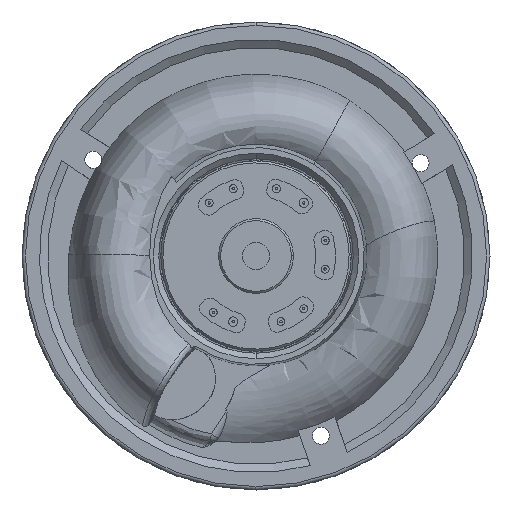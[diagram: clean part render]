
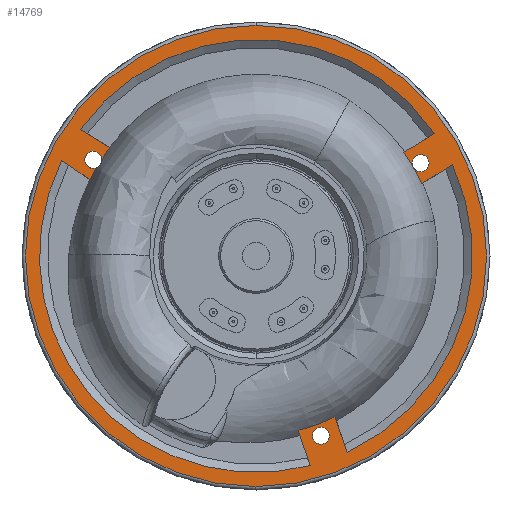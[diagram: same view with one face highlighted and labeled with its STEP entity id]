
A CAD part, front view. The second image highlights one B-rep face of the part: STEP entity #14769.
In plain terms, the highlighted planar face has unit normal (0, -1, 0).
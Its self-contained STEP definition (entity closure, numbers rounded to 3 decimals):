
#4212=CARTESIAN_POINT('',(-23.936,-5.64,14.132));
#4213=DIRECTION('',(0.,1.,0.));
#4214=DIRECTION('',(0.382,0.,-0.924));
#4215=AXIS2_PLACEMENT_3D('',#4212,#4213,#4214);
#4217=DIRECTION('',(0.823,0.,-0.567));
#4218=VECTOR('',#4217,5.063);
#4219=CARTESIAN_POINT('',(-28.571,-5.64,14.076));
#4220=LINE('',#4219,#4218);
#4221=DIRECTION('',(0.328,0.,-0.945));
#4222=VECTOR('',#4221,5.507);
#4223=CARTESIAN_POINT('',(6.178,-5.64,-25.631));
#4224=LINE('',#4223,#4222);
#4225=DIRECTION('',(-0.328,0.,0.945));
#4226=VECTOR('',#4225,5.497);
#4227=CARTESIAN_POINT('',(13.426,-5.64,-28.882));
#4228=LINE('',#4227,#4226);
#4229=DIRECTION('',(0.846,0.,0.533));
#4230=VECTOR('',#4229,5.32);
#4231=CARTESIAN_POINT('',(24.373,-5.64,10.609));
#4232=LINE('',#4231,#4230);
#4233=CARTESIAN_POINT('',(24.207,-5.64,13.663));
#4234=DIRECTION('',(0.,1.,0.));
#4235=DIRECTION('',(1.,0.,0.));
#4236=AXIS2_PLACEMENT_3D('',#4233,#4234,#4235);
#4238=CARTESIAN_POINT('',(24.207,-5.64,13.663));
#4239=DIRECTION('',(0.,1.,0.));
#4240=DIRECTION('',(-1.,0.,0.));
#4241=AXIS2_PLACEMENT_3D('',#4238,#4239,#4240);
#4243=CARTESIAN_POINT('',(24.207,-5.64,13.663));
#4244=DIRECTION('',(0.,1.,0.));
#4245=DIRECTION('',(-0.955,0.,-0.297));
#4246=AXIS2_PLACEMENT_3D('',#4243,#4244,#4245);
#4248=DIRECTION('',(-0.846,0.,-0.533));
#4249=VECTOR('',#4248,5.304);
#4250=CARTESIAN_POINT('',(26.239,-5.64,18.054));
#4251=LINE('',#4250,#4249);
#4252=DIRECTION('',(-0.852,0.,0.523));
#4253=VECTOR('',#4252,5.096);
#4254=CARTESIAN_POINT('',(-21.504,-5.64,15.945));
#4255=LINE('',#4254,#4253);
#4256=CARTESIAN_POINT('',(-23.936,-5.64,14.132));
#4257=DIRECTION('',(0.,1.,0.));
#4258=DIRECTION('',(-0.5,0.,0.866));
#4259=AXIS2_PLACEMENT_3D('',#4256,#4257,#4258);
#4261=CARTESIAN_POINT('',(9.552,-5.64,-26.431));
#4262=DIRECTION('',(0.,1.,0.));
#4263=DIRECTION('',(-1.,0.,0.));
#4264=AXIS2_PLACEMENT_3D('',#4261,#4262,#4263);
#4266=CARTESIAN_POINT('',(9.552,-5.64,-26.431));
#4267=DIRECTION('',(0.,1.,0.));
#4268=DIRECTION('',(1.,0.,0.));
#4269=AXIS2_PLACEMENT_3D('',#4266,#4267,#4268);
#4271=CARTESIAN_POINT('',(0.,-5.64,0.));
#4272=DIRECTION('',(0.,-1.,0.));
#4273=DIRECTION('',(0.,0.,-1.));
#4274=AXIS2_PLACEMENT_3D('',#4271,#4272,#4273);
#4276=CARTESIAN_POINT('',(0.,-5.64,0.));
#4277=DIRECTION('',(0.,-1.,0.));
#4278=DIRECTION('',(0.,0.,1.));
#4279=AXIS2_PLACEMENT_3D('',#4276,#4277,#4278);
#4353=CARTESIAN_POINT('',(23.281,-5.64,12.823));
#4361=CARTESIAN_POINT('',(23.013,-5.64,13.291));
#4363=CARTESIAN_POINT('',(23.281,-5.64,12.823));
#4364=CARTESIAN_POINT('',(23.484,-5.64,12.46));
#4365=CARTESIAN_POINT('',(23.867,-5.64,11.727));
#4366=CARTESIAN_POINT('',(24.211,-5.64,10.983));
#4367=CARTESIAN_POINT('',(24.373,-5.64,10.609));
#4369=CARTESIAN_POINT('',(24.373,-5.64,10.609));
#4449=CARTESIAN_POINT('',(21.751,-5.64,15.226));
#4451=CARTESIAN_POINT('',(21.751,-5.64,15.226));
#4452=CARTESIAN_POINT('',(21.982,-5.64,14.906));
#4453=CARTESIAN_POINT('',(22.423,-5.64,14.263));
#4454=CARTESIAN_POINT('',(22.823,-5.64,13.616));
#4455=CARTESIAN_POINT('',(23.013,-5.64,13.291));
#4522=CARTESIAN_POINT('',(13.426,-5.64,-28.882));
#4524=CARTESIAN_POINT('',(28.873,-5.64,13.444));
#4531=CARTESIAN_POINT('',(0.,-5.64,0.));
#4532=DIRECTION('',(0.,-1.,0.));
#4533=DIRECTION('',(0.422,0.,-0.907));
#4534=AXIS2_PLACEMENT_3D('',#4531,#4532,#4533);
#4536=CARTESIAN_POINT('',(0.,-5.64,0.));
#4537=DIRECTION('',(0.,1.,0.));
#4538=DIRECTION('',(-0.812,0.,0.584));
#4539=AXIS2_PLACEMENT_3D('',#4536,#4537,#4538);
#4546=CARTESIAN_POINT('',(26.239,-5.64,18.054));
#4553=CARTESIAN_POINT('',(-25.848,-5.64,18.61));
#4565=CARTESIAN_POINT('',(7.983,-5.64,-30.833));
#4572=CARTESIAN_POINT('',(0.,-5.64,0.));
#4573=DIRECTION('',(0.,1.,0.));
#4574=DIRECTION('',(0.251,0.,-0.968));
#4575=AXIS2_PLACEMENT_3D('',#4572,#4573,#4574);
#4582=CARTESIAN_POINT('',(-28.571,-5.64,14.076));
#4588=CARTESIAN_POINT('',(-23.459,-5.64,12.977));
#4590=CARTESIAN_POINT('',(-22.69,-5.64,14.239));
#4621=CARTESIAN_POINT('',(-22.69,-5.64,14.239));
#4622=CARTESIAN_POINT('',(-22.503,-5.64,14.529));
#4623=CARTESIAN_POINT('',(-22.119,-5.64,15.104));
#4624=CARTESIAN_POINT('',(-21.713,-5.64,15.667));
#4625=CARTESIAN_POINT('',(-21.504,-5.64,15.945));
#4627=CARTESIAN_POINT('',(-21.504,-5.64,15.945));
#4726=CARTESIAN_POINT('',(-24.402,-5.64,11.203));
#4728=CARTESIAN_POINT('',(-24.402,-5.64,11.203));
#4729=CARTESIAN_POINT('',(-24.255,-5.64,11.504));
#4730=CARTESIAN_POINT('',(-23.95,-5.64,12.1));
#4731=CARTESIAN_POINT('',(-23.626,-5.64,12.686));
#4732=CARTESIAN_POINT('',(-23.459,-5.64,12.977));
#4754=CARTESIAN_POINT('',(11.625,-5.64,-23.689));
#4755=CARTESIAN_POINT('',(11.011,-5.64,-23.995));
#4756=CARTESIAN_POINT('',(9.787,-5.64,-24.544));
#4757=CARTESIAN_POINT('',(7.984,-5.64,-25.183));
#4758=CARTESIAN_POINT('',(6.779,-5.64,-25.5));
#4759=CARTESIAN_POINT('',(6.178,-5.64,-25.631));
#8631=VERTEX_POINT('',#4353);
#8632=VERTEX_POINT('',#4361);
#8633=CARTESIAN_POINT('',(22.957,-5.64,13.663));
#8634=VERTEX_POINT('',#8633);
#8635=CARTESIAN_POINT('',(25.457,-5.64,13.663));
#8636=VERTEX_POINT('',#8635);
#8642=VERTEX_POINT('',#4588);
#8643=VERTEX_POINT('',#4590);
#8644=CARTESIAN_POINT('',(-24.561,-5.64,15.215));
#8645=VERTEX_POINT('',#8644);
#8650=CARTESIAN_POINT('',(8.302,-5.64,-26.431));
#8651=VERTEX_POINT('',#8650);
#8652=CARTESIAN_POINT('',(10.802,-5.64,-26.431));
#8653=VERTEX_POINT('',#8652);
#8702=VERTEX_POINT('',#4553);
#8705=VERTEX_POINT('',#4582);
#8726=VERTEX_POINT('',#4522);
#8727=VERTEX_POINT('',#4565);
#8728=VERTEX_POINT('',#4524);
#8729=VERTEX_POINT('',#4546);
#8730=VERTEX_POINT('',#4627);
#8731=VERTEX_POINT('',#4726);
#8732=VERTEX_POINT('',#4369);
#8733=VERTEX_POINT('',#4449);
#8734=VERTEX_POINT('',#4754);
#8735=VERTEX_POINT('',#4759);
#8754=CARTESIAN_POINT('',(0.,-5.64,-33.92));
#8755=CARTESIAN_POINT('',(0.,-5.64,33.92));
#8756=VERTEX_POINT('',#8754);
#8757=VERTEX_POINT('',#8755);
#14713=CARTESIAN_POINT('',(0.,-5.64,0.));
#14714=DIRECTION('',(0.,1.,0.));
#14715=DIRECTION('',(0.,0.,1.));
#14716=AXIS2_PLACEMENT_3D('',#14713,#14714,#14715);
#14717=PLANE('',#14716);
#14719=ORIENTED_EDGE('',*,*,#14718,.F.);
#14720=ORIENTED_EDGE('',*,*,#14703,.F.);
#14721=EDGE_LOOP('',(#14719,#14720));
#14722=FACE_OUTER_BOUND('',#14721,.F.);
#14724=ORIENTED_EDGE('',*,*,#14723,.F.);
#14726=ORIENTED_EDGE('',*,*,#14725,.F.);
#14727=EDGE_LOOP('',(#14724,#14726));
#14728=FACE_BOUND('',#14727,.F.);
#14730=ORIENTED_EDGE('',*,*,#14729,.F.);
#14732=ORIENTED_EDGE('',*,*,#14731,.F.);
#14734=ORIENTED_EDGE('',*,*,#14733,.F.);
#14736=ORIENTED_EDGE('',*,*,#14735,.F.);
#14738=ORIENTED_EDGE('',*,*,#14737,.F.);
#14740=ORIENTED_EDGE('',*,*,#14739,.F.);
#14742=ORIENTED_EDGE('',*,*,#14741,.F.);
#14744=ORIENTED_EDGE('',*,*,#14743,.T.);
#14746=ORIENTED_EDGE('',*,*,#14745,.F.);
#14748=ORIENTED_EDGE('',*,*,#14747,.F.);
#14750=ORIENTED_EDGE('',*,*,#14749,.F.);
#14752=ORIENTED_EDGE('',*,*,#14751,.F.);
#14754=ORIENTED_EDGE('',*,*,#14753,.F.);
#14756=ORIENTED_EDGE('',*,*,#14755,.F.);
#14758=ORIENTED_EDGE('',*,*,#14757,.F.);
#14760=ORIENTED_EDGE('',*,*,#14759,.F.);
#14762=ORIENTED_EDGE('',*,*,#14761,.F.);
#14764=ORIENTED_EDGE('',*,*,#14763,.F.);
#14766=ORIENTED_EDGE('',*,*,#14765,.F.);
#14767=EDGE_LOOP('',(#14730,#14732,#14734,#14736,#14738,#14740,#14742,#14744,
#14746,#14748,#14750,#14752,#14754,#14756,#14758,#14760,#14762,#14764,#14766));
#14768=FACE_BOUND('',#14767,.F.);
#14769=ADVANCED_FACE('',(#14722,#14728,#14768),#14717,.F.);
#4216=CIRCLE('',#4215,1.25);
#4237=CIRCLE('',#4236,1.25);
#4242=CIRCLE('',#4241,1.25);
#4247=CIRCLE('',#4246,1.25);
#4260=CIRCLE('',#4259,1.25);
#4265=CIRCLE('',#4264,1.25);
#4270=CIRCLE('',#4269,1.25);
#4275=CIRCLE('',#4274,33.92);
#4280=CIRCLE('',#4279,33.92);
#4368=B_SPLINE_CURVE_WITH_KNOTS('',3,(#4363,#4364,#4365,#4366,#4367),
.UNSPECIFIED.,.F.,.F.,(4,1,4),(0.,0.5,1.),.UNSPECIFIED.);
#4456=B_SPLINE_CURVE_WITH_KNOTS('',3,(#4451,#4452,#4453,#4454,#4455),
.UNSPECIFIED.,.F.,.F.,(4,1,4),(0.,0.5,1.),.UNSPECIFIED.);
#4535=CIRCLE('',#4534,31.85);
#4540=CIRCLE('',#4539,31.85);
#4576=CIRCLE('',#4575,31.85);
#4626=B_SPLINE_CURVE_WITH_KNOTS('',3,(#4621,#4622,#4623,#4624,#4625),
.UNSPECIFIED.,.F.,.F.,(4,1,4),(0.,0.5,1.),.UNSPECIFIED.);
#4733=B_SPLINE_CURVE_WITH_KNOTS('',3,(#4728,#4729,#4730,#4731,#4732),
.UNSPECIFIED.,.F.,.F.,(4,1,4),(0.,0.5,1.),.UNSPECIFIED.);
#4760=B_SPLINE_CURVE_WITH_KNOTS('',3,(#4754,#4755,#4756,#4757,#4758,#4759),
.UNSPECIFIED.,.F.,.F.,(4,1,1,4),(0.,0.333,0.667,1.),
.UNSPECIFIED.);
#14703=EDGE_CURVE('',#8757,#8756,#4280,.T.);
#14718=EDGE_CURVE('',#8756,#8757,#4275,.T.);
#14723=EDGE_CURVE('',#8651,#8653,#4265,.T.);
#14725=EDGE_CURVE('',#8653,#8651,#4270,.T.);
#14729=EDGE_CURVE('',#8642,#8645,#4216,.T.);
#14731=EDGE_CURVE('',#8731,#8642,#4733,.T.);
#14733=EDGE_CURVE('',#8705,#8731,#4220,.T.);
#14735=EDGE_CURVE('',#8727,#8705,#4576,.T.);
#14737=EDGE_CURVE('',#8735,#8727,#4224,.T.);
#14739=EDGE_CURVE('',#8734,#8735,#4760,.T.);
#14741=EDGE_CURVE('',#8726,#8734,#4228,.T.);
#14743=EDGE_CURVE('',#8726,#8728,#4535,.T.);
#14745=EDGE_CURVE('',#8732,#8728,#4232,.T.);
#14747=EDGE_CURVE('',#8631,#8732,#4368,.T.);
#14749=EDGE_CURVE('',#8636,#8631,#4237,.T.);
#14751=EDGE_CURVE('',#8634,#8636,#4242,.T.);
#14753=EDGE_CURVE('',#8632,#8634,#4247,.T.);
#14755=EDGE_CURVE('',#8733,#8632,#4456,.T.);
#14757=EDGE_CURVE('',#8729,#8733,#4251,.T.);
#14759=EDGE_CURVE('',#8702,#8729,#4540,.T.);
#14761=EDGE_CURVE('',#8730,#8702,#4255,.T.);
#14763=EDGE_CURVE('',#8643,#8730,#4626,.T.);
#14765=EDGE_CURVE('',#8645,#8643,#4260,.T.);
